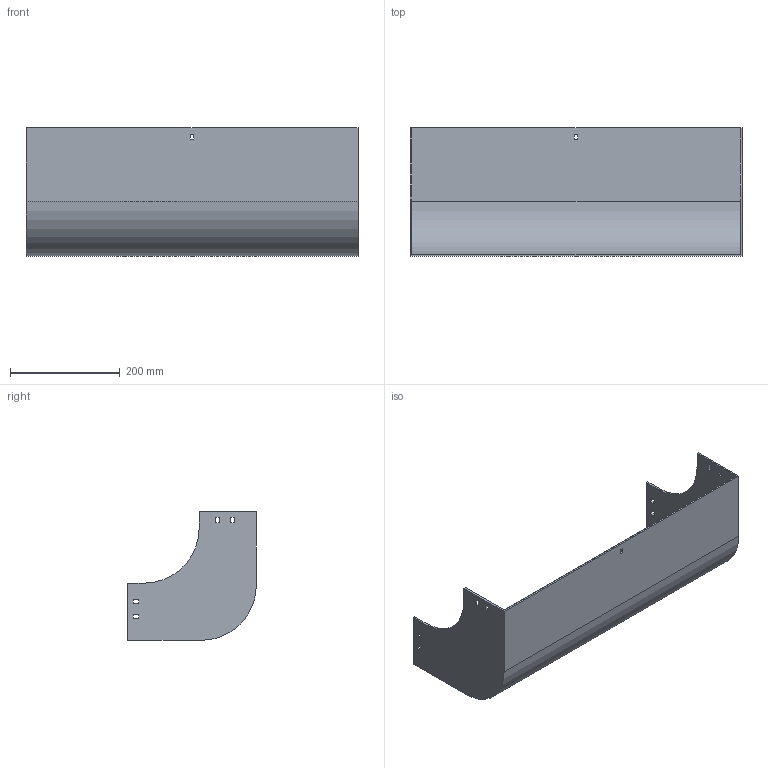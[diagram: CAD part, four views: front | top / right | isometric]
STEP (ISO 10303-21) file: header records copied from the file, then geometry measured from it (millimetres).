
FILE_DESCRIPTION (( 'STEP AP214' ), '1' );
FILE_NAME ('30F1D600.step', '2025-02-21T13:01:21', ( '' ), ( '' ), 'SwSTEP 2.0', 'SolidWorks 2023', '' );
FILE_SCHEMA (( 'AUTOMOTIVE_DESIGN' ));
Length unit declared in the file: millimetre
Products named in the file (1): 30F1D600
Bounding box: 604 x 234 x 234 mm (x, y, z)
Volume: 1145082.6 mm3; surface area: 662675.7 mm2
Topology: 1 solids, 1 shells, 58 faces, 168 edges, 112 vertices
Faces by surface type: plane 54, cylinder 4
Entity records: 1943 total; most frequent: CARTESIAN_POINT 339, ORIENTED_EDGE 336, DIRECTION 294, EDGE_CURVE 168, LINE 160, VECTOR 160, VERTEX_POINT 112, EDGE_LOOP 78
